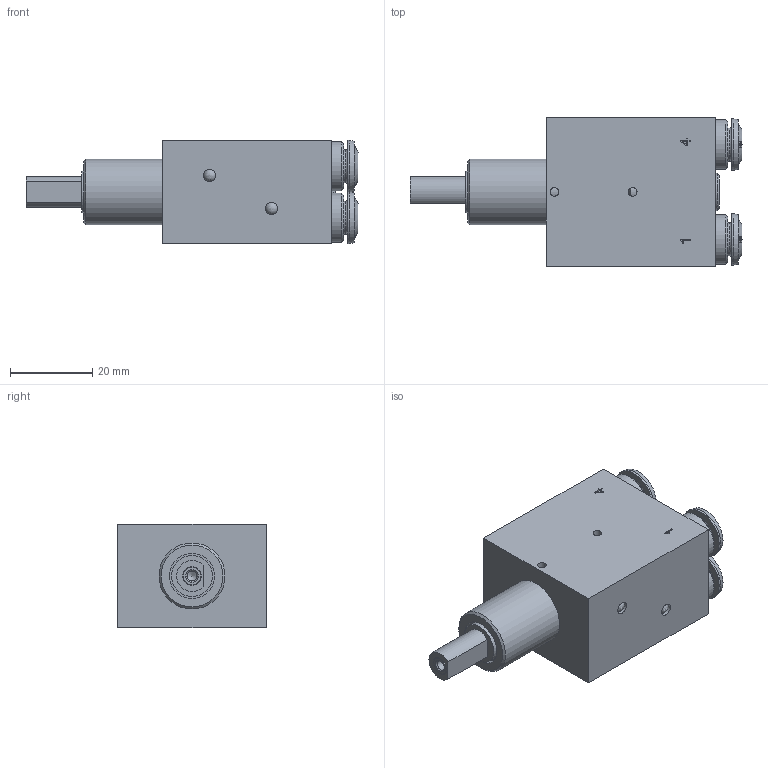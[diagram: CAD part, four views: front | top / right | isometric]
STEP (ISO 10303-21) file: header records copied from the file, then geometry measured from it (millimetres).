
FILE_DESCRIPTION( ( 'Unknown' ), '1' );
FILE_NAME( 'Q:/Solid Edge ST4/weblap modellek/stp/második adag/BHP 520 462.stp', 'Unknown', ( 'Unknown' ), ( 'Unknown' ), 'PSStep 14.0', 'Unknown', ' ' );
FILE_SCHEMA( ( 'AUTOMOTIVE_DESIGN { 1 0 10303 214 1 1 1 1 }' ) );
Length unit declared in the file: millimetre
Products named in the file (17): Assem1; -oa0
Assembly tree (16 placements, depth 2):
  Assem1
    -oa0
    -oa0
    -oa0
    -oa0
    -oa0
    -oa0
    -oa0
    -oa0
    -oa0
    -oa0
    -oa0
    -oa0
    -oa0
    -oa0
    -oa0
    -oa0
Bounding box: 80.5 x 36 x 25 mm (x, y, z)
Surface area: 12240.1 mm2
Topology: 4 solids, 346 shells, 346 faces, 1740 edges, 1657 vertices
Faces by surface type: bspline 148, plane 83, cone 58, cylinder 37, torus 8, extrusion 8, sphere 4
Full cylindrical faces by diameter (mm): 1 x1, 2.1 x2, 2.459 x1, 3 x4, 4.5 x1, 5 x2, 6.15 x1, 6.2 x4, 8 x4, 9 x1, 10 x1, 11 x1, 12 x4, 12.5 x4, 16 x1
Entity records: 38662 total; most frequent: CARTESIAN_POINT 25448, ORIENTED_EDGE 1597, EDGE_CURVE 1597, VERTEX_POINT 1597, B_SPLINE_CURVE_WITH_KNOTS 1169, DIRECTION 1050, PRESENTATION_STYLE_ASSIGNMENT 545, COLOUR_RGB 545
